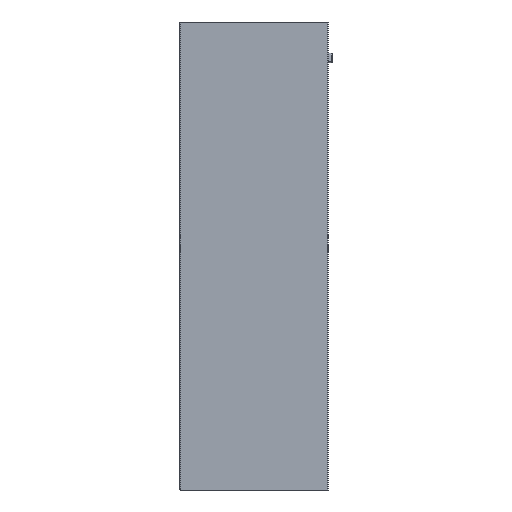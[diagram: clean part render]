
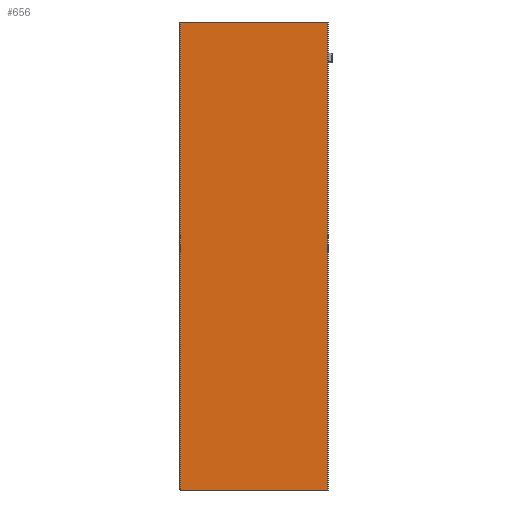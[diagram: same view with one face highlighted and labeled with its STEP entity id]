
A CAD part, left-side view. The second image highlights one B-rep face of the part: STEP entity #656.
In plain terms, the highlighted planar face has unit normal (-1, 0, 0).
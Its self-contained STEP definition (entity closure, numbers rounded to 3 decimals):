
#56 = VECTOR ( 'NONE', #10076, 1000. ) ;
#656 = ADVANCED_FACE ( 'NONE', ( #5753 ), #10222, .T. ) ;
#890 = CARTESIAN_POINT ( 'NONE',  ( -12.5, 141.8, -549. ) ) ;
#949 = EDGE_CURVE ( 'NONE', #5421, #5215, #12522, .T. ) ;
#1631 = EDGE_CURVE ( 'NONE', #2622, #8189, #2783, .T. ) ;
#1876 = DIRECTION ( 'NONE',  ( 0., -1., 0. ) ) ;
#2243 = DIRECTION ( 'NONE',  ( -1., 0., 0. ) ) ;
#2280 = DIRECTION ( 'NONE',  ( 0., 1., 0. ) ) ;
#2622 = VERTEX_POINT ( 'NONE', #11686 ) ;
#2783 = LINE ( 'NONE', #6188, #8131 ) ;
#2919 = CARTESIAN_POINT ( 'NONE',  ( -12.5, -30.66, 0. ) ) ;
#3012 = EDGE_LOOP ( 'NONE', ( #7619, #11430, #8140, #11191 ) ) ;
#3303 = CARTESIAN_POINT ( 'NONE',  ( -12.5, 55.8, -562.455 ) ) ;
#3654 = CARTESIAN_POINT ( 'NONE',  ( -12.5, 141.8, 0. ) ) ;
#5215 = VERTEX_POINT ( 'NONE', #3654 ) ;
#5421 = VERTEX_POINT ( 'NONE', #890 ) ;
#5753 = FACE_OUTER_BOUND ( 'NONE', #3012, .T. ) ;
#6186 = DIRECTION ( 'NONE',  ( 0., 0., 1. ) ) ;
#6188 = CARTESIAN_POINT ( 'NONE',  ( -12.5, -30.66, -562.455 ) ) ;
#6455 = CARTESIAN_POINT ( 'NONE',  ( -12.5, 56.8, -549. ) ) ;
#7456 = DIRECTION ( 'NONE',  ( 0., -1., 0. ) ) ;
#7619 = ORIENTED_EDGE ( 'NONE', *, *, #949, .F. ) ;
#7667 = VECTOR ( 'NONE', #7456, 1000. ) ;
#7987 = LINE ( 'NONE', #6455, #7667 ) ;
#8131 = VECTOR ( 'NONE', #6186, 1000. ) ;
#8140 = ORIENTED_EDGE ( 'NONE', *, *, #1631, .T. ) ;
#8189 = VERTEX_POINT ( 'NONE', #2919 ) ;
#9028 = LINE ( 'NONE', #10746, #11591 ) ;
#9185 = CARTESIAN_POINT ( 'NONE',  ( -12.5, 141.8, -562.455 ) ) ;
#10001 = EDGE_CURVE ( 'NONE', #5421, #2622, #7987, .T. ) ;
#10076 = DIRECTION ( 'NONE',  ( 0., 0., 1. ) ) ;
#10222 = PLANE ( 'NONE',  #12449 ) ;
#10746 = CARTESIAN_POINT ( 'NONE',  ( -12.5, 55.8, 0. ) ) ;
#11076 = EDGE_CURVE ( 'NONE', #5215, #8189, #9028, .T. ) ;
#11191 = ORIENTED_EDGE ( 'NONE', *, *, #11076, .F. ) ;
#11430 = ORIENTED_EDGE ( 'NONE', *, *, #10001, .T. ) ;
#11591 = VECTOR ( 'NONE', #1876, 1000. ) ;
#11686 = CARTESIAN_POINT ( 'NONE',  ( -12.5, -30.66, -549. ) ) ;
#12449 = AXIS2_PLACEMENT_3D ( 'NONE', #3303, #2243, #2280 ) ;
#12522 = LINE ( 'NONE', #9185, #56 ) ;
